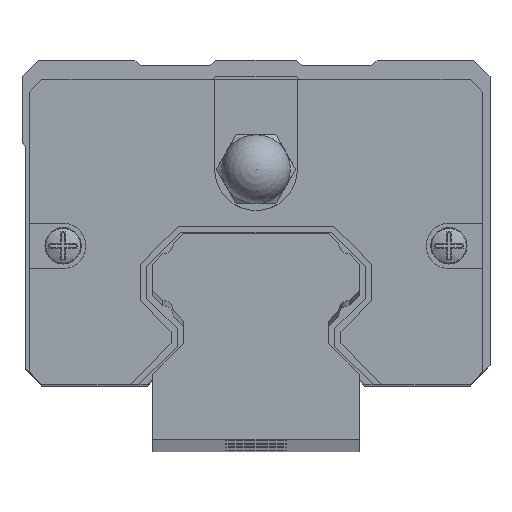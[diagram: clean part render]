
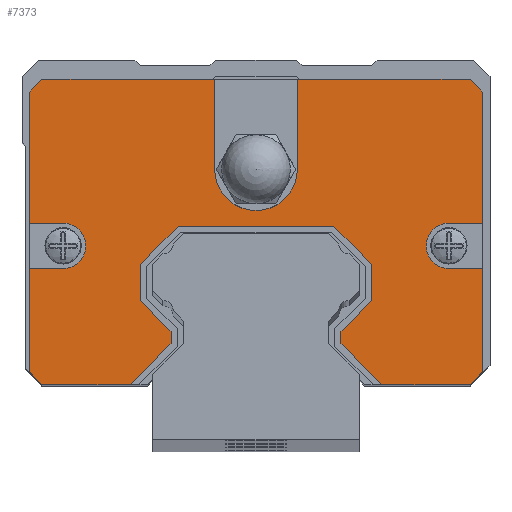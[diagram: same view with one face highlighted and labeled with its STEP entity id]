
A CAD part, top view. The second image highlights one B-rep face of the part: STEP entity #7373.
In plain terms, the highlighted planar face has unit normal (0, 0, 1).
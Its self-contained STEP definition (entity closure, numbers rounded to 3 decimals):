
#575=LINE('',#11744,#1379);
#579=LINE('',#11752,#1383);
#580=LINE('',#11754,#1384);
#581=LINE('',#11756,#1385);
#582=LINE('',#11758,#1386);
#583=LINE('',#11760,#1387);
#584=LINE('',#11762,#1388);
#585=LINE('',#11764,#1389);
#586=LINE('',#11766,#1390);
#587=LINE('',#11768,#1391);
#588=LINE('',#11770,#1392);
#589=LINE('',#11772,#1393);
#590=LINE('',#11774,#1394);
#591=LINE('',#11776,#1395);
#592=LINE('',#11778,#1396);
#593=LINE('',#11780,#1397);
#594=LINE('',#11784,#1398);
#595=LINE('',#11786,#1399);
#596=LINE('',#11788,#1400);
#597=LINE('',#11790,#1401);
#598=LINE('',#11792,#1402);
#599=LINE('',#11796,#1403);
#600=LINE('',#11798,#1404);
#601=LINE('',#11800,#1405);
#602=LINE('',#11802,#1406);
#603=LINE('',#11803,#1407);
#604=LINE('',#11805,#1408);
#605=LINE('',#11807,#1409);
#606=LINE('',#11808,#1410);
#1379=VECTOR('',#9587,1000.);
#1383=VECTOR('',#9593,1000.);
#1384=VECTOR('',#9594,1000.);
#1385=VECTOR('',#9595,1000.);
#1386=VECTOR('',#9596,1000.);
#1387=VECTOR('',#9597,1000.);
#1388=VECTOR('',#9598,1000.);
#1389=VECTOR('',#9599,1000.);
#1390=VECTOR('',#9600,1000.);
#1391=VECTOR('',#9601,1000.);
#1392=VECTOR('',#9602,1000.);
#1393=VECTOR('',#9603,1000.);
#1394=VECTOR('',#9604,1000.);
#1395=VECTOR('',#9605,1000.);
#1396=VECTOR('',#9606,1000.);
#1397=VECTOR('',#9607,1000.);
#1398=VECTOR('',#9610,1000.);
#1399=VECTOR('',#9611,1000.);
#1400=VECTOR('',#9612,1000.);
#1401=VECTOR('',#9613,1000.);
#1402=VECTOR('',#9614,1000.);
#1403=VECTOR('',#9617,1000.);
#1404=VECTOR('',#9618,1000.);
#1405=VECTOR('',#9619,1000.);
#1406=VECTOR('',#9620,1000.);
#1407=VECTOR('',#9621,1000.);
#1408=VECTOR('',#9622,1000.);
#1409=VECTOR('',#9623,1000.);
#1410=VECTOR('',#9624,1000.);
#1860=PLANE('',#7999);
#2381=FACE_OUTER_BOUND('',#2854,.T.);
#2854=EDGE_LOOP('',(#6337,#6338,#6339,#6340,#6341,#6342,#6343,#6344,#6345,
#6346,#6347,#6348,#6349,#6350,#6351,#6352,#6353,#6354,#6355,#6356,#6357,
#6358,#6359,#6360,#6361,#6362,#6363,#6364,#6365,#6366,#6367,#6368));
#3194=CIRCLE('',#7997,1.649);
#3195=CIRCLE('',#8000,1.649);
#3196=CIRCLE('',#8001,3.);
#3736=VERTEX_POINT('',#11728);
#3737=VERTEX_POINT('',#11730);
#3742=VERTEX_POINT('',#11741);
#3743=VERTEX_POINT('',#11743);
#3746=VERTEX_POINT('',#11751);
#3747=VERTEX_POINT('',#11753);
#3748=VERTEX_POINT('',#11755);
#3749=VERTEX_POINT('',#11757);
#3750=VERTEX_POINT('',#11759);
#3751=VERTEX_POINT('',#11761);
#3752=VERTEX_POINT('',#11763);
#3753=VERTEX_POINT('',#11765);
#3754=VERTEX_POINT('',#11767);
#3755=VERTEX_POINT('',#11769);
#3756=VERTEX_POINT('',#11771);
#3757=VERTEX_POINT('',#11773);
#3758=VERTEX_POINT('',#11775);
#3759=VERTEX_POINT('',#11777);
#3760=VERTEX_POINT('',#11779);
#3761=VERTEX_POINT('',#11781);
#3762=VERTEX_POINT('',#11783);
#3763=VERTEX_POINT('',#11785);
#3764=VERTEX_POINT('',#11787);
#3765=VERTEX_POINT('',#11789);
#3766=VERTEX_POINT('',#11791);
#3767=VERTEX_POINT('',#11793);
#3768=VERTEX_POINT('',#11795);
#3769=VERTEX_POINT('',#11797);
#3770=VERTEX_POINT('',#11799);
#3771=VERTEX_POINT('',#11801);
#3772=VERTEX_POINT('',#11804);
#3773=VERTEX_POINT('',#11806);
#4649=EDGE_CURVE('',#3736,#3737,#3194,.T.);
#4655=EDGE_CURVE('',#3743,#3742,#575,.T.);
#4659=EDGE_CURVE('',#3742,#3746,#579,.T.);
#4660=EDGE_CURVE('',#3746,#3747,#580,.T.);
#4661=EDGE_CURVE('',#3747,#3748,#581,.T.);
#4662=EDGE_CURVE('',#3748,#3749,#582,.T.);
#4663=EDGE_CURVE('',#3749,#3750,#583,.T.);
#4664=EDGE_CURVE('',#3750,#3751,#584,.T.);
#4665=EDGE_CURVE('',#3751,#3752,#585,.T.);
#4666=EDGE_CURVE('',#3752,#3753,#586,.T.);
#4667=EDGE_CURVE('',#3753,#3754,#587,.T.);
#4668=EDGE_CURVE('',#3754,#3755,#588,.T.);
#4669=EDGE_CURVE('',#3755,#3756,#589,.T.);
#4670=EDGE_CURVE('',#3756,#3757,#590,.T.);
#4671=EDGE_CURVE('',#3757,#3758,#591,.T.);
#4672=EDGE_CURVE('',#3758,#3759,#592,.T.);
#4673=EDGE_CURVE('',#3759,#3760,#593,.T.);
#4674=EDGE_CURVE('',#3760,#3761,#3195,.T.);
#4675=EDGE_CURVE('',#3761,#3762,#594,.T.);
#4676=EDGE_CURVE('',#3762,#3763,#595,.T.);
#4677=EDGE_CURVE('',#3763,#3764,#596,.T.);
#4678=EDGE_CURVE('',#3764,#3765,#597,.T.);
#4679=EDGE_CURVE('',#3765,#3766,#598,.T.);
#4680=EDGE_CURVE('',#3766,#3767,#3196,.T.);
#4681=EDGE_CURVE('',#3767,#3768,#599,.T.);
#4682=EDGE_CURVE('',#3768,#3769,#600,.T.);
#4683=EDGE_CURVE('',#3769,#3770,#601,.T.);
#4684=EDGE_CURVE('',#3770,#3771,#602,.T.);
#4685=EDGE_CURVE('',#3771,#3737,#603,.T.);
#4686=EDGE_CURVE('',#3736,#3772,#604,.T.);
#4687=EDGE_CURVE('',#3772,#3773,#605,.T.);
#4688=EDGE_CURVE('',#3773,#3743,#606,.T.);
#6337=ORIENTED_EDGE('',*,*,#4659,.T.);
#6338=ORIENTED_EDGE('',*,*,#4660,.T.);
#6339=ORIENTED_EDGE('',*,*,#4661,.T.);
#6340=ORIENTED_EDGE('',*,*,#4662,.T.);
#6341=ORIENTED_EDGE('',*,*,#4663,.T.);
#6342=ORIENTED_EDGE('',*,*,#4664,.T.);
#6343=ORIENTED_EDGE('',*,*,#4665,.T.);
#6344=ORIENTED_EDGE('',*,*,#4666,.T.);
#6345=ORIENTED_EDGE('',*,*,#4667,.T.);
#6346=ORIENTED_EDGE('',*,*,#4668,.T.);
#6347=ORIENTED_EDGE('',*,*,#4669,.T.);
#6348=ORIENTED_EDGE('',*,*,#4670,.T.);
#6349=ORIENTED_EDGE('',*,*,#4671,.T.);
#6350=ORIENTED_EDGE('',*,*,#4672,.T.);
#6351=ORIENTED_EDGE('',*,*,#4673,.T.);
#6352=ORIENTED_EDGE('',*,*,#4674,.T.);
#6353=ORIENTED_EDGE('',*,*,#4675,.T.);
#6354=ORIENTED_EDGE('',*,*,#4676,.T.);
#6355=ORIENTED_EDGE('',*,*,#4677,.T.);
#6356=ORIENTED_EDGE('',*,*,#4678,.T.);
#6357=ORIENTED_EDGE('',*,*,#4679,.T.);
#6358=ORIENTED_EDGE('',*,*,#4680,.T.);
#6359=ORIENTED_EDGE('',*,*,#4681,.T.);
#6360=ORIENTED_EDGE('',*,*,#4682,.T.);
#6361=ORIENTED_EDGE('',*,*,#4683,.T.);
#6362=ORIENTED_EDGE('',*,*,#4684,.T.);
#6363=ORIENTED_EDGE('',*,*,#4685,.T.);
#6364=ORIENTED_EDGE('',*,*,#4649,.F.);
#6365=ORIENTED_EDGE('',*,*,#4686,.T.);
#6366=ORIENTED_EDGE('',*,*,#4687,.T.);
#6367=ORIENTED_EDGE('',*,*,#4688,.T.);
#6368=ORIENTED_EDGE('',*,*,#4655,.T.);
#7373=ADVANCED_FACE('',(#2381),#1860,.F.);
#7997=AXIS2_PLACEMENT_3D('',#11731,#9578,#9579);
#7999=AXIS2_PLACEMENT_3D('',#11750,#9591,#9592);
#8000=AXIS2_PLACEMENT_3D('',#11782,#9608,#9609);
#8001=AXIS2_PLACEMENT_3D('',#11794,#9615,#9616);
#9578=DIRECTION('center_axis',(0.,0.,1.));
#9579=DIRECTION('ref_axis',(1.,0.,0.));
#9587=DIRECTION('',(1.,0.,0.));
#9591=DIRECTION('center_axis',(0.,0.,-1.));
#9592=DIRECTION('ref_axis',(-1.,0.,0.));
#9593=DIRECTION('',(0.707,0.707,0.));
#9594=DIRECTION('',(0.,1.,0.));
#9595=DIRECTION('',(-0.707,0.707,0.));
#9596=DIRECTION('',(0.,1.,0.));
#9597=DIRECTION('',(0.707,0.707,0.));
#9598=DIRECTION('',(1.,0.,0.));
#9599=DIRECTION('',(0.707,-0.707,0.));
#9600=DIRECTION('',(0.,-1.,0.));
#9601=DIRECTION('',(-0.707,-0.707,0.));
#9602=DIRECTION('',(0.,-1.,0.));
#9603=DIRECTION('',(0.707,-0.707,0.));
#9604=DIRECTION('',(1.,0.,0.));
#9605=DIRECTION('',(0.707,0.707,0.));
#9606=DIRECTION('',(0.,1.,0.));
#9607=DIRECTION('',(-1.,0.,0.));
#9608=DIRECTION('center_axis',(0.,0.,-1.));
#9609=DIRECTION('ref_axis',(-1.,0.,0.));
#9610=DIRECTION('',(1.,0.,0.));
#9611=DIRECTION('',(0.,1.,0.));
#9612=DIRECTION('',(-0.707,0.707,0.));
#9613=DIRECTION('',(-1.,0.,0.));
#9614=DIRECTION('',(0.,-1.,0.));
#9615=DIRECTION('center_axis',(0.,0.,-1.));
#9616=DIRECTION('ref_axis',(-1.,0.,0.));
#9617=DIRECTION('',(0.,1.,0.));
#9618=DIRECTION('',(-1.,0.,0.));
#9619=DIRECTION('',(-0.707,-0.707,0.));
#9620=DIRECTION('',(0.,-1.,0.));
#9621=DIRECTION('',(1.,0.,0.));
#9622=DIRECTION('',(-1.,0.,0.));
#9623=DIRECTION('',(0.,-1.,0.));
#9624=DIRECTION('',(0.707,-0.707,0.));
#11728=CARTESIAN_POINT('',(-14.017,8.431,30.25));
#11730=CARTESIAN_POINT('',(-14.017,11.729,30.25));
#11731=CARTESIAN_POINT('Origin',(-14.017,10.08,30.25));
#11741=CARTESIAN_POINT('',(-9.148,0.,30.25));
#11743=CARTESIAN_POINT('',(-15.557,0.,30.25));
#11744=CARTESIAN_POINT('',(-15.557,0.,30.25));
#11750=CARTESIAN_POINT('Origin',(0.,-15.557,
30.25));
#11751=CARTESIAN_POINT('',(-6.174,2.974,30.25));
#11752=CARTESIAN_POINT('',(-9.148,0.,30.25));
#11753=CARTESIAN_POINT('',(-6.174,3.867,30.25));
#11754=CARTESIAN_POINT('',(-6.174,2.974,30.25));
#11755=CARTESIAN_POINT('',(-8.4,6.093,30.25));
#11756=CARTESIAN_POINT('',(-6.174,3.867,30.25));
#11757=CARTESIAN_POINT('',(-8.4,8.747,30.25));
#11758=CARTESIAN_POINT('',(-8.4,6.093,30.25));
#11759=CARTESIAN_POINT('',(-5.647,11.5,30.25));
#11760=CARTESIAN_POINT('',(-8.4,8.747,30.25));
#11761=CARTESIAN_POINT('',(5.647,11.5,30.25));
#11762=CARTESIAN_POINT('',(-5.647,11.5,30.25));
#11763=CARTESIAN_POINT('',(8.4,8.747,30.25));
#11764=CARTESIAN_POINT('',(8.4,8.747,30.25));
#11765=CARTESIAN_POINT('',(8.4,6.093,30.25));
#11766=CARTESIAN_POINT('',(8.4,6.093,30.25));
#11767=CARTESIAN_POINT('',(6.174,3.867,30.25));
#11768=CARTESIAN_POINT('',(6.174,3.867,30.25));
#11769=CARTESIAN_POINT('',(6.174,2.974,30.25));
#11770=CARTESIAN_POINT('',(6.174,2.974,30.25));
#11771=CARTESIAN_POINT('',(9.148,0.,30.25));
#11772=CARTESIAN_POINT('',(9.148,0.,30.25));
#11773=CARTESIAN_POINT('',(15.557,0.,30.25));
#11774=CARTESIAN_POINT('',(-15.557,0.,30.25));
#11775=CARTESIAN_POINT('',(16.49,0.933,30.25));
#11776=CARTESIAN_POINT('',(16.49,0.933,30.25));
#11777=CARTESIAN_POINT('',(16.49,8.431,30.25));
#11778=CARTESIAN_POINT('',(16.49,0.933,30.25));
#11779=CARTESIAN_POINT('',(14.017,8.431,30.25));
#11780=CARTESIAN_POINT('',(16.49,8.431,30.25));
#11781=CARTESIAN_POINT('',(14.017,11.729,30.25));
#11782=CARTESIAN_POINT('Origin',(14.017,10.08,30.25));
#11783=CARTESIAN_POINT('',(16.49,11.729,30.25));
#11784=CARTESIAN_POINT('',(14.017,11.729,30.25));
#11785=CARTESIAN_POINT('',(16.49,21.251,30.25));
#11786=CARTESIAN_POINT('',(16.49,0.933,30.25));
#11787=CARTESIAN_POINT('',(15.557,22.184,30.25));
#11788=CARTESIAN_POINT('',(16.49,21.251,30.25));
#11789=CARTESIAN_POINT('',(3.,22.184,30.25));
#11790=CARTESIAN_POINT('',(-15.557,22.184,30.25));
#11791=CARTESIAN_POINT('',(3.,15.65,30.25));
#11792=CARTESIAN_POINT('',(3.,15.65,30.25));
#11793=CARTESIAN_POINT('',(-3.,15.65,30.25));
#11794=CARTESIAN_POINT('Origin',(0.,15.65,30.25));
#11795=CARTESIAN_POINT('',(-3.,22.184,30.25));
#11796=CARTESIAN_POINT('',(-3.,22.184,30.25));
#11797=CARTESIAN_POINT('',(-15.557,22.184,30.25));
#11798=CARTESIAN_POINT('',(-15.557,22.184,30.25));
#11799=CARTESIAN_POINT('',(-16.49,21.251,30.25));
#11800=CARTESIAN_POINT('',(-16.49,21.251,30.25));
#11801=CARTESIAN_POINT('',(-16.49,11.729,30.25));
#11802=CARTESIAN_POINT('',(-16.49,0.933,30.25));
#11803=CARTESIAN_POINT('',(-14.017,11.729,30.25));
#11804=CARTESIAN_POINT('',(-16.49,8.431,30.25));
#11805=CARTESIAN_POINT('',(-16.49,8.431,30.25));
#11806=CARTESIAN_POINT('',(-16.49,0.933,30.25));
#11807=CARTESIAN_POINT('',(-16.49,0.933,30.25));
#11808=CARTESIAN_POINT('',(-16.49,0.933,30.25));
